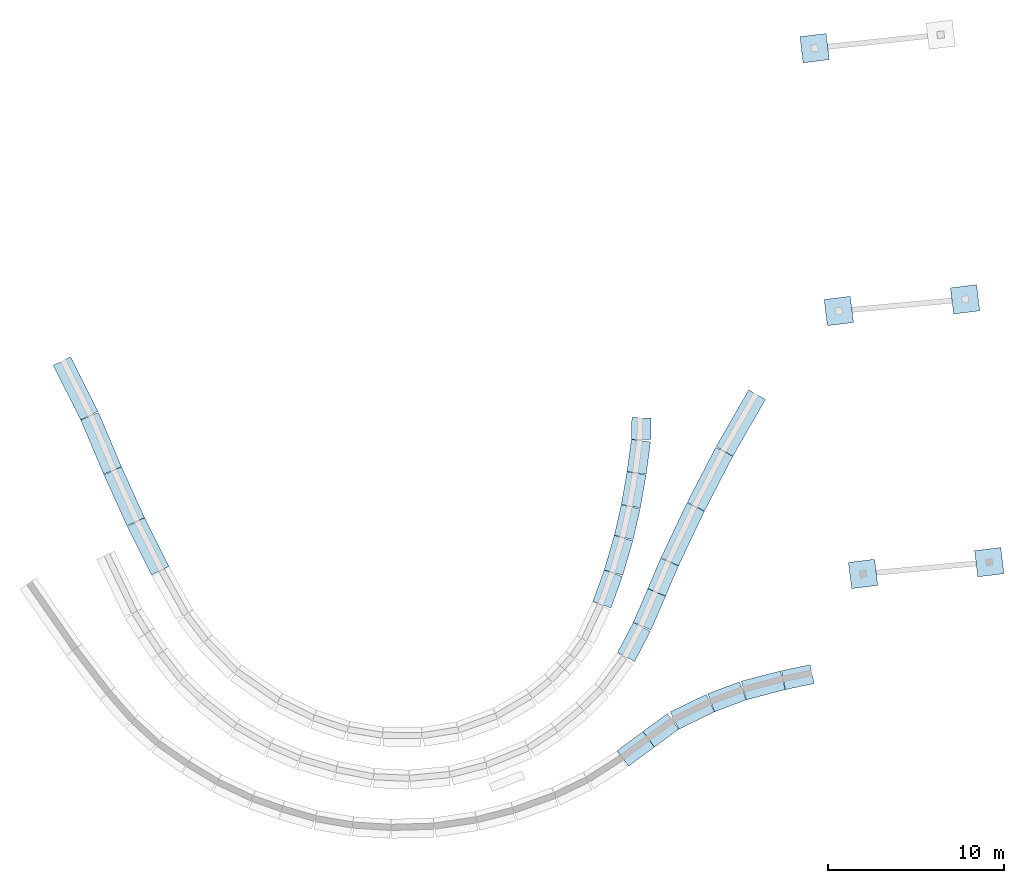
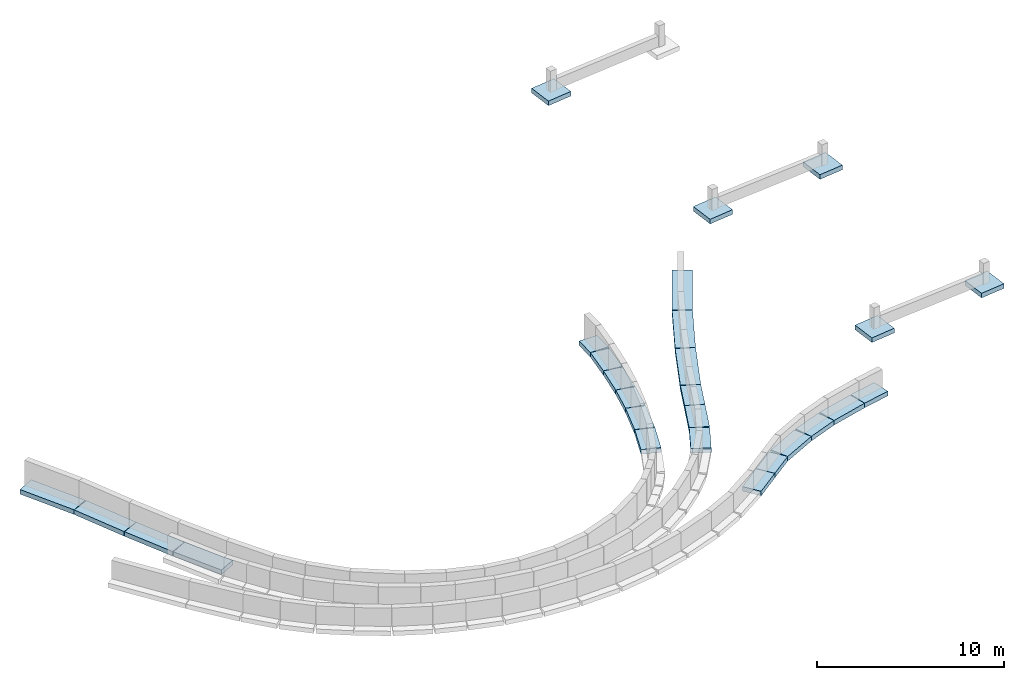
# One storey, part 3 of 6: 27 footings.
"""IFC2X3 building model written with IfcOpenShell, lengths in millimetres."""

import ifcopenshell
import ifcopenshell.guid

model = None  # the IFC model being written
_history = None  # IfcOwnerHistory: only IFC2X3 demands one
_inside = {}  # id of a spatial element -> (the spatial element, [elements in it])
_under = {}  # id of a project, library or spatial element -> (it, [spatial elements below it])
_declared = {}  # id of a project -> (the project, [libraries it declares])
_typed = {}  # id of a type object -> (the type object, [elements of that type])
_made_of = {}  # id of a material, layer set ... -> (it, [elements and type objects made of it])


def new_model(schema):
    """Start an empty IFC model of exactly this schema.

    Asked for "IFC4X3", IfcOpenShell would pick the latest addendum, in which some entities
    have other attributes; the version numbers below select the first issue.
    IFC2X3 requires an IfcOwnerHistory on every rooted entity: one is made here for all.
    """
    global model, _history
    if schema == "IFC4X3":
        model = ifcopenshell.file(schema_version=(4, 3, 0, 0))
    else:
        model = ifcopenshell.file(schema=schema)
    _inside.clear()
    _under.clear()
    _declared.clear()
    _typed.clear()
    _made_of.clear()
    _history = None
    if model.schema == "IFC2X3":
        org = make("IfcOrganization", Name="unknown")
        user = make(
            "IfcPersonAndOrganization",
            ThePerson=make("IfcPerson", FamilyName="unknown"),
            TheOrganization=org,
        )
        app = make(
            "IfcApplication",
            ApplicationDeveloper=org,
            Version="unknown",
            ApplicationFullName="unknown",
            ApplicationIdentifier="unknown",
        )
        _history = make(
            "IfcOwnerHistory",
            OwningUser=user,
            OwningApplication=app,
            ChangeAction="ADDED",
            CreationDate=0,
        )
    return model


def make(cls, **values):
    """One entity of the class cls with the attributes given. An attribute that is None is left unset."""
    return model.create_entity(
        cls, **{name: value for name, value in values.items() if value is not None}
    )


def entity(cls, *values):
    """Any entity or typed value of the class cls, its attributes in the order of the schema. None: left unset."""
    e = model.create_entity(cls)
    for i, value in enumerate(values):
        if value is not None:
            e[i] = value
    return e


def rooted(cls, **values):
    """An entity with a GlobalId (a new one), such as an element, a storey or a relation."""
    return make(cls, GlobalId=ifcopenshell.guid.new(), OwnerHistory=_history, **values)


def si_unit(unit_type, name, prefix=None):
    """IfcSIUnit, for example si_unit("LENGTHUNIT", "METRE", prefix="MILLI")."""
    return make("IfcSIUnit", UnitType=unit_type, Prefix=prefix, Name=name)


def converted_unit(unit_type, name, factor, base, dimensions=None, offset=None):
    """IfcConversionBasedUnit, such as the inch: factor (a typed value) times the base unit."""
    return make(
        "IfcConversionBasedUnit"
        if offset is None
        else "IfcConversionBasedUnitWithOffset",
        ConversionOffset=offset,
        Dimensions=None
        if dimensions is None
        else entity("IfcDimensionalExponents", *dimensions),
        UnitType=unit_type,
        Name=name,
        ConversionFactor=make(
            "IfcMeasureWithUnit", ValueComponent=factor, UnitComponent=base
        ),
    )


def assignment(units):
    """IfcUnitAssignment: the units of a project."""
    return None if units is None else make("IfcUnitAssignment", Units=units)


def point(xyz):
    """IfcCartesianPoint."""
    return None if xyz is None else make("IfcCartesianPoint", Coordinates=xyz)


def direction(xyz):
    """IfcDirection."""
    return None if xyz is None else make("IfcDirection", DirectionRatios=xyz)


def frame(location, z_axis=None, x_axis=None):
    """IfcAxis2Placement3D, a coordinate frame: its origin and axes. An axis left out is left unset."""
    return make(
        "IfcAxis2Placement3D",
        Location=point(location),
        Axis=direction(z_axis),
        RefDirection=direction(x_axis),
    )


def origin():
    """The frame at (0, 0, 0) with its axes left unset."""
    return frame((0.0, 0.0, 0.0))


def origin_with_axes():
    """The frame at (0, 0, 0) with the z axis (0, 0, 1) and the x axis (1, 0, 0) written out."""
    return frame((0.0, 0.0, 0.0), z_axis=(0.0, 0.0, 1.0), x_axis=(1.0, 0.0, 0.0))


def place(relative_to, where):
    """IfcLocalPlacement: puts the frame where relative to a parent placement (None: the world)."""
    return make(
        "IfcLocalPlacement", PlacementRelTo=relative_to, RelativePlacement=where
    )


def context(
    kind, dimensions, precision=None, world=None, true_north=None, identifier=None
):
    """IfcGeometricRepresentationContext, for example the 3D "Model" context."""
    return make(
        "IfcGeometricRepresentationContext",
        ContextIdentifier=identifier,
        ContextType=kind,
        CoordinateSpaceDimension=dimensions,
        Precision=precision,
        WorldCoordinateSystem=world,
        TrueNorth=true_north,
    )


def project(units=None, contexts=None):
    """IfcProject with its units and contexts."""
    return rooted(
        "IfcProject",
        Name="project",
        RepresentationContexts=contexts,
        UnitsInContext=assignment(units),
    )


def spatial(cls, under=None, at=None, **own):
    """A site, building, storey or space (cls), placed at a placement, below another one or the project."""
    s = rooted(cls, ObjectPlacement=at, **own)
    if under is not None:
        _under.setdefault(under.id(), (under, []))[1].append(s)
    return s


def faces_of(points, faces, orient=None, outer=None):
    """IfcFace entities. A face is a list of loops; a loop is a list of indices into points, from 0.

    orient and outer hold one flag for each loop. By default every Orientation is true, the
    first loop of a face is its IfcFaceOuterBound and the others are IfcFaceBound.
    """
    made = []
    for i, loops in enumerate(faces):
        bounds = []
        for j, loop in enumerate(loops):
            is_outer = j == 0 if outer is None else outer[i][j]
            bounds.append(
                make(
                    "IfcFaceOuterBound" if is_outer else "IfcFaceBound",
                    Bound=make("IfcPolyLoop", Polygon=[points[k] for k in loop]),
                    Orientation=True if orient is None else orient[i][j],
                )
            )
        made.append(make("IfcFace", Bounds=bounds))
    return made


def faceted_brep(points, faces, orient=None, outer=None, voids=None):
    """IfcFacetedBrep: a solid bounded by flat faces; with voids (closed shells), ...WithVoids."""
    shared = [point(p) for p in points]
    hull = make("IfcClosedShell", CfsFaces=faces_of(shared, faces, orient, outer))
    if voids is None:
        return make("IfcFacetedBrep", Outer=hull)
    return make(
        "IfcFacetedBrepWithVoids",
        Outer=hull,
        Voids=[
            make(cls, CfsFaces=faces_of(shared, fs, o, b)) for cls, fs, o, b in voids
        ],
    )


def shape(context_of_items, identifier, shape_type, items):
    """IfcShapeRepresentation: the items that make up one representation, for example the "Body"."""
    return make(
        "IfcShapeRepresentation",
        ContextOfItems=context_of_items,
        RepresentationIdentifier=identifier,
        RepresentationType=shape_type,
        Items=items,
    )


def made_of(thing, what):
    """Note that an element or type object is made of a material, layer set ...; save() writes the relation."""
    if what is not None:
        _made_of.setdefault(what.id(), (what, []))[1].append(thing)
    return thing


def element(
    cls,
    number,
    at=None,
    inside=None,
    cuts=None,
    type_object=None,
    material=None,
    context=None,
    identifier="Body",
    shape_type=None,
    held_by="IfcProductDefinitionShape",
    body=None,
    shapes=None,
    **own,
):
    """One element of the class cls, such as IfcWall. Its Tag is "e" and its number.

    at: its placement. inside: the storey or other place that contains it. cuts: it is an
    opening in that element (IfcRelVoidsElement). A single representation is given by context,
    identifier, shape_type and body (its items); several are given by shapes. held_by: the class
    of the entity that holds the representations. save() writes the other relations.
    """
    e = rooted(cls, Tag="e%d" % number, ObjectPlacement=at, **own)
    if body is not None:
        shapes = [shape(context, identifier, shape_type, body)]
    if shapes is not None:
        e.Representation = make(held_by, Representations=shapes)
    if inside is not None:
        _inside.setdefault(inside.id(), (inside, []))[1].append(e)
    if cuts is not None:
        rooted(
            "IfcRelVoidsElement", RelatingBuildingElement=cuts, RelatedOpeningElement=e
        )
    if type_object is not None:
        _typed.setdefault(type_object.id(), (type_object, []))[1].append(e)
    return made_of(e, material)


def aggregate(whole, parts):
    """IfcRelAggregates: a whole, such as a stair, and the parts it consists of."""
    return rooted("IfcRelAggregates", RelatingObject=whole, RelatedObjects=parts)


def save(model, path):
    """Write the relations noted so far, then the file.

    IfcRelAggregates (storeys below a building ...), IfcRelContainedInSpatialStructure (elements
    in a storey), IfcRelDefinesByType, IfcRelAssociatesMaterial and IfcRelDeclares: one each for
    every whole, place, type object, material and project.
    """
    for whole, parts in _under.values():
        aggregate(whole, parts)
    for where, things in _inside.values():
        rooted(
            "IfcRelContainedInSpatialStructure",
            RelatedElements=things,
            RelatingStructure=where,
        )
    for kind, things in _typed.values():
        rooted("IfcRelDefinesByType", RelatedObjects=things, RelatingType=kind)
    for what, things in _made_of.values():
        rooted("IfcRelAssociatesMaterial", RelatedObjects=things, RelatingMaterial=what)
    for by, libraries in _declared.values():
        rooted("IfcRelDeclares", RelatingContext=by, RelatedDefinitions=libraries)
    model.write(path)


model = new_model("IFC2X3")

# Units and contexts
model_context = context("Model", 3, precision=1e-05, world=origin(), true_north=direction((0.0, 1.0, 0.0)))
ifc_project = project(units=[si_unit("LENGTHUNIT", "METRE", prefix="MILLI"), si_unit("AREAUNIT", "SQUARE_METRE"), si_unit("VOLUMEUNIT", "CUBIC_METRE"), converted_unit("PLANEANGLEUNIT", "DEGREE", entity("IfcPlaneAngleMeasure", 0.01745), si_unit("PLANEANGLEUNIT", "RADIAN"), dimensions=[0, 0, 0, 0, 0, 0, 0]), si_unit("SOLIDANGLEUNIT", "STERADIAN"), si_unit("MASSUNIT", "GRAM"), si_unit("TIMEUNIT", "SECOND"), si_unit("THERMODYNAMICTEMPERATUREUNIT", "DEGREE_CELSIUS"), si_unit("LUMINOUSINTENSITYUNIT", "LUMEN")], contexts=[model_context])

# Site, building, storey
site_placement = place(None, origin_with_axes())
site = spatial("IfcSite", under=ifc_project, at=site_placement, Name="Default Site", CompositionType="ELEMENT")
building_placement = place(site_placement, origin_with_axes())
building = spatial("IfcBuilding", under=site, at=building_placement, Name="Default Building", CompositionType="ELEMENT")
storey_placement = place(building_placement, origin_with_axes())
storey = spatial("IfcBuildingStorey", under=building, at=storey_placement, Name="Fundação", CompositionType="ELEMENT", Elevation=0.0)

# Footings
footing_1_placement = place(storey_placement, origin_with_axes())
element("IfcFooting", 1, at=footing_1_placement, inside=storey, Name="IfcFooting - IfcFooting - Viga 49 (110/30)", context=model_context, shape_type="Brep", body=[
    faceted_brep([(20334.26553393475, -650.9571686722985, -2100.000029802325), (19322.57403815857, -219.1233650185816, -2100.000029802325), (18586.43514300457, -1943.734826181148, -2100.000029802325), (19598.12663878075, -2375.568629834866, -2100.000029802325), (19322.57403815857, -219.1233650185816, -2400.000041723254), (18586.43514300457, -1943.734826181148, -2400.000041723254), (19598.48989928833, -336.8962422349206, -2400.000041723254), (18862.35100413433, -2061.507703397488, -2400.000041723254), (19920.39171243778, -474.2978826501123, -2400.000041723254), (19184.25286198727, -2198.909343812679, -2400.000041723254), (20334.26553393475, -650.9571686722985, -2400.000041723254), (19598.12663878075, -2375.568629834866, -2400.000041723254)], [[[0, 1, 2]], [[0, 2, 3]], [[1, 4, 5]], [[1, 5, 2]], [[4, 6, 7]], [[4, 7, 5]], [[6, 8, 9]], [[6, 9, 7]], [[8, 10, 11]], [[8, 11, 9]], [[10, 0, 3]], [[10, 3, 11]], [[5, 3, 2]], [[3, 5, 11]], [[11, 5, 7]], [[11, 7, 9]], [[10, 1, 0]], [[1, 10, 4]]]),
])
footing_2_placement = place(storey_placement, origin_with_axes())
element("IfcFooting", 2, at=footing_2_placement, inside=storey, Name="IfcFooting - IfcFooting - Viga 51 (110/30)", context=model_context, shape_type="Brep", body=[
    faceted_brep([(18738.69025926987, -4368.096090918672, -2100.000029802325), (17762.99542035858, -3860.139764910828, -2100.000029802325), (16867.18642931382, -5580.831386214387, -2100.000029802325), (17842.88126822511, -6088.787712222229, -2100.000029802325), (17762.99542035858, -3860.139764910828, -2400.000041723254), (16867.18642931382, -5580.831386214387, -2400.000041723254), (18029.09401278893, -3998.673297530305, -2400.000041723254), (17133.2850478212, -5719.364918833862, -2400.000041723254), (18339.54239111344, -4160.295762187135, -2400.000041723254), (17443.73339634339, -5880.987383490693, -2400.000041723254), (18738.69025926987, -4368.096090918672, -2400.000041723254), (17842.88126822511, -6088.787712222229, -2400.000041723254)], [[[0, 1, 2]], [[0, 2, 3]], [[1, 4, 5]], [[1, 5, 2]], [[4, 6, 7]], [[4, 7, 5]], [[6, 8, 9]], [[6, 9, 7]], [[8, 10, 11]], [[8, 11, 9]], [[10, 0, 3]], [[10, 3, 11]], [[5, 3, 2]], [[3, 5, 11]], [[11, 5, 7]], [[0, 4, 1]], [[4, 0, 10]], [[4, 10, 6]], [[6, 10, 8]]]),
])
footing_3_placement = place(storey_placement, origin_with_axes())
element("IfcFooting", 3, at=footing_3_placement, inside=storey, Name="IfcFooting - IfcFooting - Viga 47 (110/30)", context=model_context, shape_type="Brep", body=[
    faceted_brep([(23422.80650268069, 5579.815283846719, -2100.000029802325), (22445.7365585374, 6085.121289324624, -2100.000029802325), (20829.70309386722, 2960.326329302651, -2100.000029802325), (21806.77303801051, 2455.020323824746, -2100.000029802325), (22445.7365585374, 6085.121289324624, -2400.000041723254), (20829.70309386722, 2960.326329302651, -2400.000041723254), (22712.21017966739, 5947.310582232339, -2400.000041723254), (21096.17674479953, 2822.515622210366, -2400.000041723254), (23023.09608588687, 5786.531344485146, -2400.000041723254), (21407.06259141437, 2661.736384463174, -2400.000041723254), (23422.80650268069, 5579.815283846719, -2400.000041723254), (21806.77303801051, 2455.020323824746, -2400.000041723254)], [[[0, 1, 2]], [[0, 2, 3]], [[1, 4, 5]], [[1, 5, 2]], [[4, 6, 7]], [[4, 7, 5]], [[6, 8, 9]], [[6, 9, 7]], [[8, 10, 11]], [[8, 11, 9]], [[10, 0, 3]], [[10, 3, 11]], [[5, 3, 2]], [[3, 5, 11]], [[11, 5, 7]], [[11, 7, 9]], [[10, 1, 0]], [[1, 10, 4]], [[4, 10, 8]], [[4, 8, 6]]]),
])
footing_4_placement = place(storey_placement, origin_with_axes())
element("IfcFooting", 4, at=footing_4_placement, inside=storey, Name="IfcFooting - IfcFooting - Viga 50 (110/30)", context=model_context, shape_type="Brep", body=[
    faceted_brep([(19597.08884725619, -2377.99193491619, -2100.000029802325), (18586.43517265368, -1943.734844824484, -2100.000029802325), (17762.99539575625, -3860.139747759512, -2100.000029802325), (18773.64907035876, -4294.396837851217, -2100.000029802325), (18586.43517265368, -1943.734844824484, -2400.000041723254), (17762.99539575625, -3860.139747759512, -2400.000041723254), (18862.06798622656, -2062.168558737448, -2400.000041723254), (18038.62825403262, -3978.573521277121, -2400.000041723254), (19183.63961944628, -2200.341304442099, -2400.000041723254), (18360.19984254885, -4116.746207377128, -2400.000041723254), (19597.08884725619, -2377.99193491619, -2400.000041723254), (18773.64907035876, -4294.396837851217, -2400.000041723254)], [[[0, 1, 2]], [[0, 2, 3]], [[1, 4, 5]], [[1, 5, 2]], [[4, 6, 7]], [[4, 7, 5]], [[6, 8, 9]], [[6, 9, 7]], [[8, 10, 11]], [[8, 11, 9]], [[10, 0, 3]], [[10, 3, 11]], [[5, 3, 2]], [[3, 5, 11]], [[10, 1, 0]], [[1, 10, 4]], [[4, 8, 6]]]),
])
footing_5_placement = place(storey_placement, origin_with_axes())
element("IfcFooting", 5, at=footing_5_placement, inside=storey, Name="IfcFooting - IfcFooting - Viga 46 (110/30)", context=model_context, shape_type="Brep", body=[
    faceted_brep([(25278.07321858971, 8803.116880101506, -2100.000029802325), (24324.71513462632, 9351.850352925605, -2100.000029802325), (22469.44847417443, 6128.548703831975, -2100.000029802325), (23422.80655813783, 5579.815231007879, -2100.000029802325), (24324.71513462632, 9351.850352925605, -2400.000041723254), (22469.44847417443, 6128.548703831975, -2400.000041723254), (24584.72189021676, 9202.19572607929, -2400.000041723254), (22729.45525956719, 5978.894076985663, -2400.000041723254), (24888.06310010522, 9027.598701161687, -2400.000041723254), (23032.79640985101, 5804.29705206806, -2400.000041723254), (25278.07321858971, 8803.116880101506, -2400.000041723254), (23422.80655813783, 5579.815231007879, -2400.000041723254)], [[[0, 1, 2]], [[0, 2, 3]], [[1, 4, 5]], [[1, 5, 2]], [[4, 6, 7]], [[4, 7, 5]], [[6, 8, 9]], [[6, 9, 7]], [[8, 10, 11]], [[8, 11, 9]], [[10, 0, 3]], [[10, 3, 11]], [[5, 3, 2]], [[3, 5, 11]], [[11, 5, 7]], [[11, 7, 9]], [[10, 1, 0]], [[1, 10, 4]], [[4, 10, 8]]]),
])
footing_6_placement = place(storey_placement, origin_with_axes())
element("IfcFooting", 6, at=footing_6_placement, inside=storey, Name="IfcFooting - IfcFooting - Viga 48 (110/30)", context=model_context, shape_type="Brep", body=[
    faceted_brep([(21806.77309654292, 2455.020283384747, -2100.000029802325), (20812.81687341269, 2926.243280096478, -2100.000029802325), (19340.30929229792, -179.7341359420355, -2100.000029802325), (20334.26551542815, -650.9571326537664, -2100.000029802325), (20812.81687341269, 2926.243280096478, -2400.000041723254), (19340.30929229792, -179.7341359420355, -2400.000041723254), (21083.89583252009, 2797.727917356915, -2400.000041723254), (19611.38829610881, -308.2494986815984, -2400.000041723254), (21400.15462062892, 2647.793387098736, -2400.000041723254), (19927.64708421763, -458.1841481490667, -2400.000041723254), (21806.77309654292, 2455.020283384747, -2400.000041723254), (20334.26551542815, -650.9571326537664, -2400.000041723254)], [[[0, 1, 2]], [[0, 2, 3]], [[1, 4, 5]], [[1, 5, 2]], [[4, 6, 7]], [[4, 7, 5]], [[6, 8, 9]], [[6, 9, 7]], [[8, 10, 11]], [[8, 11, 9]], [[10, 0, 3]], [[10, 3, 11]], [[5, 3, 2]], [[3, 5, 11]], [[11, 5, 7]], [[11, 7, 9]], [[10, 1, 0]], [[1, 10, 4]], [[4, 10, 8]], [[4, 8, 6]]]),
])
footing_7_placement = place(storey_placement, origin_with_axes())
element("IfcFooting", 7, at=footing_7_placement, inside=storey, Name="IfcFooting - IfcFooting - Viga 1 (110/30)", context=model_context, shape_type="Brep", body=[
    faceted_brep([(-14209.41708448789, 11227.40836743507, -3450.000000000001), (-15191.76805976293, 10732.4472248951, -3450.000000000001), (-13631.80569771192, 7636.384207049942, -3450.000000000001), (-12649.45472243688, 8131.34534958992, -3450.000000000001), (-15191.76805976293, 10732.4472248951, -3750.000011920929), (-13631.80569771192, 7636.384207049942, -3750.000011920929), (-14789.89721301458, 10934.93135575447, -3750.000011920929), (-13229.93482116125, 7838.868337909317, -3750.000011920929), (-14477.33099225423, 11092.41898659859, -3750.000011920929), (-12917.36854079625, 7996.355968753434, -3750.000011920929), (-14209.41708448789, 11227.40836743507, -3750.000011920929), (-12649.45472243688, 8131.34534958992, -3750.000011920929)], [[[0, 1, 2]], [[0, 2, 3]], [[1, 4, 5]], [[1, 5, 2]], [[4, 6, 7]], [[4, 7, 5]], [[6, 8, 9]], [[6, 9, 7]], [[8, 10, 11]], [[8, 11, 9]], [[10, 0, 3]], [[10, 3, 11]], [[5, 3, 2]], [[3, 5, 11]], [[11, 5, 7]], [[11, 7, 9]], [[10, 1, 0]], [[1, 10, 8]], [[1, 8, 6]], [[1, 6, 4]]]),
])
footing_8_placement = place(storey_placement, origin_with_axes())
element("IfcFooting", 8, at=footing_8_placement, inside=storey, Name="IfcFooting - IfcFooting - Viga 17 (110/30)", context=model_context, shape_type="Brep", body=[
    faceted_brep([(17144.96027210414, -1260.392999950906, -3450.000000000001), (16110.4266373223, -886.5747216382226, -3450.000000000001), (15465.56841114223, -2671.205139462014, -3450.000000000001), (16500.10204592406, -3045.023417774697, -3450.000000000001), (16110.4266373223, -886.5747216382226, -3750.000011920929), (15465.56841114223, -2671.205139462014, -3750.000011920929), (16392.57217475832, -988.5251286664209, -3750.000011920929), (15747.71397092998, -2773.155606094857, -3750.000011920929), (16721.74196222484, -1107.467329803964, -3750.000011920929), (16076.88373604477, -2892.0978072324, -3750.000011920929), (17144.96027210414, -1260.392999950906, -3750.000011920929), (16500.10204592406, -3045.023417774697, -3750.000011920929)], [[[0, 1, 2]], [[0, 2, 3]], [[1, 4, 5]], [[1, 5, 2]], [[4, 6, 7]], [[4, 7, 5]], [[6, 8, 9]], [[6, 9, 7]], [[8, 10, 11]], [[8, 11, 9]], [[10, 0, 3]], [[10, 3, 11]], [[5, 3, 2]], [[3, 5, 11]], [[11, 5, 7]], [[11, 7, 9]], [[0, 4, 1]], [[4, 0, 6]], [[6, 0, 10]]]),
])
footing_9_placement = place(storey_placement, origin_with_axes())
element("IfcFooting", 9, at=footing_9_placement, inside=storey, Name="IfcFooting - IfcFooting - Viga 2 (110/30)", context=model_context, shape_type="Brep", body=[
    faceted_brep([(-12618.55309010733, 8064.542075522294, -3450.000000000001), (-13631.80569113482, 7636.384269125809, -3450.000000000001), (-12327.06012130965, 4548.651715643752, -3450.000000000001), (-11313.80752028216, 4976.809522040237, -3450.000000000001), (-13631.80569113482, 7636.384269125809, -3750.000011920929), (-12327.06012130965, 4548.651715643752, -3750.000011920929), (-13217.29329527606, 7811.539670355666, -3750.000011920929), (-11912.5476807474, 4723.807236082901, -3750.000011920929), (-12894.89472211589, 7947.771688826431, -3750.000011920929), (-11590.14913738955, 4860.039254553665, -3750.000011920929), (-12618.55309010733, 8064.542075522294, -3750.000011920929), (-11313.80752028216, 4976.809522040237, -3750.000011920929)], [[[0, 1, 2]], [[0, 2, 3]], [[1, 4, 5]], [[1, 5, 2]], [[4, 6, 7]], [[4, 7, 5]], [[6, 8, 9]], [[6, 9, 7]], [[8, 10, 11]], [[8, 11, 9]], [[10, 0, 3]], [[10, 3, 11]], [[5, 3, 2]], [[3, 5, 11]], [[11, 5, 7]], [[11, 7, 9]], [[10, 1, 0]], [[1, 10, 4]], [[4, 10, 8]]]),
])
footing_10_placement = place(storey_placement, origin_with_axes())
element("IfcFooting", 10, at=footing_10_placement, inside=storey, Name="IfcFooting - IfcFooting - Viga 4 (110/30)", context=model_context, shape_type="Brep", body=[
    faceted_brep([(-10004.38720095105, 2082.353854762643, -3450.000000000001), (-10988.25714099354, 1590.418959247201, -3450.000000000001), (-9606.432558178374, -1173.230146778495, -3450.000000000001), (-8622.562618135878, -681.2952512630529, -3450.000000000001), (-10988.25714099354, 1590.418959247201, -3750.000011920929), (-9606.432558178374, -1173.230146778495, -3750.000011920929), (-10585.76485621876, 1791.664982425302, -3750.000011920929), (-9203.940303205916, -971.9840043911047, -3750.000011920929), (-10272.71536099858, 1948.189759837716, -3750.000011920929), (-8890.890807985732, -815.4593461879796, -3750.000011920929), (-10004.38720095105, 2082.353854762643, -3750.000011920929), (-8622.562618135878, -681.2952512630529, -3750.000011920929)], [[[0, 1, 2]], [[0, 2, 3]], [[1, 4, 5]], [[1, 5, 2]], [[4, 6, 7]], [[4, 7, 5]], [[6, 8, 9]], [[6, 9, 7]], [[8, 10, 11]], [[8, 11, 9]], [[10, 0, 3]], [[10, 3, 11]], [[5, 3, 2]], [[3, 5, 11]], [[11, 5, 7]], [[11, 7, 9]], [[10, 1, 0]], [[1, 10, 4]], [[4, 10, 8]], [[4, 8, 6]]]),
])
footing_11_placement = place(storey_placement, origin_with_axes())
element("IfcFooting", 11, at=footing_11_placement, inside=storey, Name="IfcFooting - IfcFooting - Viga 22 (110/30)", context=model_context, shape_type="Brep", body=[
    faceted_brep([(18778.94260555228, 7749.570636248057, -3450.000000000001), (17679.15733724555, 7771.305529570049, -3450.000000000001), (17654.72426086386, 6534.992961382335, -3450.000000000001), (18754.50952917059, 6513.258068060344, -3450.000000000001), (17679.15733724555, 7771.305529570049, -3750.000011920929), (17654.72426086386, 6534.992961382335, -3750.000011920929), (17979.09877270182, 7765.377847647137, -3750.000011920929), (17954.6657112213, 6529.065219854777, -3750.000011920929), (18329.03043746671, 7758.462218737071, -3750.000011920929), (18304.59738343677, 6522.149590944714, -3750.000011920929), (18778.94260555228, 7749.570636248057, -3750.000011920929), (18754.50952917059, 6513.258068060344, -3750.000011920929)], [[[0, 1, 2]], [[0, 2, 3]], [[1, 4, 5]], [[1, 5, 2]], [[4, 6, 7]], [[4, 7, 5]], [[6, 8, 9]], [[6, 9, 7]], [[8, 10, 11]], [[8, 11, 9]], [[10, 0, 3]], [[10, 3, 11]], [[5, 3, 2]], [[3, 5, 11]], [[11, 5, 7]], [[10, 1, 0]], [[1, 10, 4]], [[4, 10, 8]]]),
])
footing_12_placement = place(storey_placement, origin_with_axes())
element("IfcFooting", 12, at=footing_12_placement, inside=storey, Name="IfcFooting - IfcFooting - Viga 20 (110/30)", context=model_context, shape_type="Brep", body=[
    faceted_brep([(18490.65406482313, 4513.77860128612, -3450.000000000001), (17406.81652586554, 4701.65142833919, -3450.000000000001), (17081.65998618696, 2825.824294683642, -3450.000000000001), (18165.49752514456, 2637.951467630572, -3450.000000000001), (17406.81652586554, 4701.65142833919, -3750.000011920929), (17081.65998618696, 2825.824294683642, -3750.000011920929), (17702.40858059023, 4650.413368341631, -3750.000011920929), (17377.25205581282, 2774.586294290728, -3750.000011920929), (18047.26599018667, 4590.635631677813, -3750.000011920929), (17722.10944305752, 2714.80855762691, -3750.000011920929), (18490.65406482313, 4513.77860128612, -3750.000011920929), (18165.49752514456, 2637.951467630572, -3750.000011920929)], [[[0, 1, 2]], [[0, 2, 3]], [[1, 4, 5]], [[1, 5, 2]], [[4, 6, 7]], [[4, 7, 5]], [[6, 8, 9]], [[6, 9, 7]], [[8, 10, 11]], [[8, 11, 9]], [[10, 0, 3]], [[10, 3, 11]], [[5, 3, 2]], [[3, 5, 11]], [[11, 5, 7]], [[10, 1, 0]], [[1, 10, 6]], [[1, 6, 4]], [[6, 10, 8]]]),
])
footing_13_placement = place(storey_placement, origin_with_axes())
element("IfcFooting", 13, at=footing_13_placement, inside=storey, Name="IfcFooting - IfcFooting - Viga 21 (110/30)", context=model_context, shape_type="Brep", body=[
    faceted_brep([(18744.80344002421, 6387.590461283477, -3450.000000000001), (17654.72428147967, 6534.992926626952, -3450.000000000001), (17406.81649391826, 4701.651387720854, -3450.000000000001), (18496.8956524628, 4554.248922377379, -3450.000000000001), (17654.72428147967, 6534.992926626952, -3750.000011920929), (17406.81649391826, 4701.651387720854, -3750.000011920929), (17952.01859270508, 6494.792275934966, -3750.000011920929), (17704.11084239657, 4661.450677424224, -3750.000011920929), (18298.86194710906, 6447.891467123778, -3750.000011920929), (18050.95419121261, 4614.549928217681, -3750.000011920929), (18744.80344002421, 6387.590461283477, -3750.000011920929), (18496.8956524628, 4554.248922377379, -3750.000011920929)], [[[0, 1, 2]], [[0, 2, 3]], [[1, 4, 5]], [[1, 5, 2]], [[4, 6, 7]], [[4, 7, 5]], [[6, 8, 9]], [[6, 9, 7]], [[8, 10, 11]], [[8, 11, 9]], [[10, 0, 3]], [[10, 3, 11]], [[5, 3, 2]], [[3, 5, 11]], [[11, 5, 7]], [[11, 7, 9]], [[10, 1, 0]], [[1, 10, 4]], [[4, 8, 6]]]),
])
footing_14_placement = place(storey_placement, origin_with_axes())
element("IfcFooting", 14, at=footing_14_placement, inside=storey, Name="IfcFooting - IfcFooting - Viga 3 (110/30)", context=model_context, shape_type="Brep", body=[
    faceted_brep([(-11313.80750532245, 4976.80959918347, -3450.000000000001), (-12316.02315898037, 4523.418047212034, -3450.000000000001), (-11006.60284156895, 1628.96237590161, -3450.000000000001), (-10004.38718791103, 2082.353927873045, -3450.000000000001), (-12316.02315898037, 4523.418047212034, -3750.000011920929), (-11006.60284156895, 1628.96237590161, -3750.000011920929), (-11906.02581496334, 4708.896376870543, -3750.000011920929), (-10596.60552735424, 1814.440705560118, -3750.000011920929), (-11587.13905806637, 4853.157379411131, -3750.000011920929), (-10277.71871085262, 1958.701708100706, -3750.000011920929), (-11313.80750532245, 4976.80959918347, -3750.000011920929), (-10004.38718791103, 2082.353927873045, -3750.000011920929)], [[[0, 1, 2]], [[0, 2, 3]], [[1, 4, 5]], [[1, 5, 2]], [[4, 6, 7]], [[4, 7, 5]], [[6, 8, 9]], [[6, 9, 7]], [[8, 10, 11]], [[8, 11, 9]], [[10, 0, 3]], [[10, 3, 11]], [[5, 3, 2]], [[3, 5, 11]], [[11, 5, 7]], [[11, 7, 9]], [[10, 1, 0]], [[1, 10, 4]], [[4, 10, 8]], [[4, 8, 6]]]),
])
footing_15_placement = place(storey_placement, origin_with_axes())
element("IfcFooting", 15, at=footing_15_placement, inside=storey, Name="IfcFooting - IfcFooting - Viga 19 (110/30)", context=model_context, shape_type="Brep", body=[
    faceted_brep([(18154.0795209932, 2581.04605496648, -3450.000000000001), (17081.65999680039, 2825.824330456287, -3450.000000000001), (16683.87445240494, 1083.051155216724, -3450.000000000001), (17756.29397659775, 838.2728797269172, -3450.000000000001), (17081.65999680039, 2825.824330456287, -3750.000011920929), (16683.87445240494, 1083.051155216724, -3750.000011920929), (17374.13803666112, 2759.066591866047, -3750.000011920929), (16976.35250716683, 1016.293416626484, -3750.000011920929), (17715.36242394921, 2681.182633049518, -3750.000011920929), (17317.57690935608, 938.4094578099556, -3750.000011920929), (18154.0795209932, 2581.04605496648, -3750.000011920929), (17756.29397659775, 838.2728797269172, -3750.000011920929)], [[[0, 1, 2]], [[0, 2, 3]], [[1, 4, 5]], [[1, 5, 2]], [[4, 6, 7]], [[4, 7, 5]], [[6, 8, 9]], [[6, 9, 7]], [[8, 10, 11]], [[8, 11, 9]], [[10, 0, 3]], [[10, 3, 11]], [[5, 3, 2]], [[3, 5, 11]], [[11, 5, 7]], [[11, 7, 9]], [[10, 1, 0]], [[1, 10, 4]], [[4, 8, 6]]]),
])
footing_16_placement = place(storey_placement, origin_with_axes())
element("IfcFooting", 16, at=footing_16_placement, inside=storey, Name="IfcFooting - IfcFooting - Viga 18 (110/30)", context=model_context, shape_type="Brep", body=[
    faceted_brep([(17740.02227754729, 775.5583944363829, -3450.000000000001), (16683.87447865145, 1083.051187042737, -3450.000000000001), (16110.42664022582, -886.5747032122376, -3450.000000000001), (17166.57443912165, -1194.067495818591, -3450.000000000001), (16683.87447865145, 1083.051187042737, -3750.000011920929), (16110.42664022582, -886.5747032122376, -3750.000011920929), (16971.91478507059, 999.1894784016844, -3750.000011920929), (16398.46692056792, -970.4363522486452, -3750.000011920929), (17307.96182723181, 901.3508977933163, -3750.000011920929), (16734.51397390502, -1068.274992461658, -3750.000011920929), (17740.02227754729, 775.5583944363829, -3750.000011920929), (17166.57443912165, -1194.067495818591, -3750.000011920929)], [[[0, 1, 2]], [[0, 2, 3]], [[1, 4, 5]], [[1, 5, 2]], [[4, 6, 7]], [[4, 7, 5]], [[6, 8, 9]], [[6, 9, 7]], [[8, 10, 11]], [[8, 11, 9]], [[10, 0, 3]], [[10, 3, 11]], [[5, 3, 2]], [[3, 5, 11]], [[11, 5, 7]], [[10, 1, 0]], [[1, 10, 4]], [[4, 8, 6]]]),
])
footing_17_placement = place(storey_placement, origin_with_axes())
element("IfcFooting", 17, at=footing_17_placement, inside=storey, Name="IfcFooting - IfcFooting - Viga 100 (110/30)", context=model_context, shape_type="Brep", body=[
    faceted_brep([(18964.77002011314, -10950.76500732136, -1200.00002980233), (18309.9340807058, -10066.91552061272, -1200.00002980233), (16842.64820920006, -11154.01389557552, -1200.00002980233), (17497.4841486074, -12037.86338228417, -1200.00002980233), (18309.9340807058, -10066.91552061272, -1500.000041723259), (16842.64820920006, -11154.01389557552, -1500.000041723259), (18488.52568970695, -10307.96534675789, -1500.000041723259), (17021.23987780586, -11395.06376642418, -1500.000041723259), (18696.88254700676, -10589.19019359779, -1500.000041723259), (17229.59673510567, -11676.28861326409, -1500.000041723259), (18964.77002011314, -10950.76500732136, -1500.000041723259), (17497.4841486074, -12037.86338228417, -1500.000041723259)], [[[0, 1, 2]], [[0, 2, 3]], [[1, 4, 5]], [[1, 5, 2]], [[4, 6, 7]], [[4, 7, 5]], [[6, 8, 9]], [[6, 9, 7]], [[8, 10, 11]], [[8, 11, 9]], [[10, 0, 3]], [[10, 3, 11]], [[5, 3, 2]], [[3, 5, 11]], [[11, 5, 7]], [[11, 7, 9]], [[10, 1, 0]], [[1, 10, 4]], [[4, 10, 8]], [[4, 8, 6]]]),
])
footing_18_placement = place(storey_placement, origin_with_axes())
element("IfcFooting", 18, at=footing_18_placement, inside=storey, Name="IfcFooting - IfcFooting - Viga 99 (110/30)", context=model_context, shape_type="Brep", body=[
    faceted_brep([(20350.17185497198, -9937.387158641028, -1200.00002980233), (19700.7489113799, -9049.552788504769, -1200.00002980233), (18315.34700679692, -10062.93063379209, -1200.00002980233), (18964.769950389, -10950.76500392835, -1200.00002980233), (19700.7489113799, -9049.552788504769, -1500.000041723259), (18315.34700679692, -10062.93063379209, -1500.000041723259), (19877.86423253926, -9291.689445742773, -1500.000041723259), (18492.46238756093, -10305.0672910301, -1500.000041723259), (20084.49881362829, -9574.18217278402, -1500.000041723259), (18699.09696864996, -10587.56004787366, -1500.000041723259), (20350.17185497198, -9937.387158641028, -1500.000041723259), (18964.769950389, -10950.76500392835, -1500.000041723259)], [[[0, 1, 2]], [[0, 2, 3]], [[1, 4, 5]], [[1, 5, 2]], [[4, 6, 7]], [[4, 7, 5]], [[6, 8, 9]], [[6, 9, 7]], [[8, 10, 11]], [[8, 11, 9]], [[10, 0, 3]], [[10, 3, 11]], [[5, 3, 2]], [[3, 5, 11]], [[11, 5, 7]], [[10, 1, 0]], [[1, 10, 4]], [[4, 8, 6]]]),
])
footing_19_placement = place(storey_placement, origin_with_axes())
element("IfcFooting", 19, at=footing_19_placement, inside=storey, Name="IfcFooting - IfcFooting - Viga 96 (110/30)", context=model_context, shape_type="Brep", body=[
    faceted_brep([(26400.75668588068, -7686.742800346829, -1200.00002980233), (26122.38559022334, -6622.548463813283, -1200.00002980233), (23899.97777238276, -7203.884112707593, -1200.00002980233), (24178.34886804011, -8268.078449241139, -1200.00002980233), (26122.38559022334, -6622.548463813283, -1500.000041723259), (23899.97777238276, -7203.884112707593, -1500.000041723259), (26198.30497994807, -6912.78332757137, -1500.000041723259), (23975.89716210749, -7494.118920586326, -1500.000041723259), (26286.87760129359, -7251.390579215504, -1500.000041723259), (24064.46978345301, -7832.726213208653, -1500.000041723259), (26400.75668588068, -7686.742800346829, -1500.000041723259), (24178.34886804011, -8268.078449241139, -1500.000041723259)], [[[0, 1, 2]], [[0, 2, 3]], [[1, 4, 5]], [[1, 5, 2]], [[4, 6, 7]], [[4, 7, 5]], [[6, 8, 9]], [[6, 9, 7]], [[8, 10, 11]], [[8, 11, 9]], [[10, 0, 3]], [[10, 3, 11]], [[5, 3, 2]], [[3, 5, 11]], [[10, 1, 0]], [[1, 10, 4]]]),
])
footing_20_placement = place(storey_placement, origin_with_axes())
element("IfcFooting", 20, at=footing_20_placement, inside=storey, Name="IfcFooting - IfcFooting - Viga 98 (110/30)", context=model_context, shape_type="Brep", body=[
    faceted_brep([(22385.99594034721, -8944.09030873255, -1200.00002980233), (21903.64684261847, -7955.485541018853, -1200.00002980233), (19867.82272257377, -8948.782418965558, -1200.00002980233), (20350.17182030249, -9937.387186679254, -1200.00002980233), (21903.64684261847, -7955.485541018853, -1500.000041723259), (19867.82272257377, -8948.782418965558, -1500.000041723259), (22035.19661821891, -8225.105065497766, -1500.000041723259), (19999.37243856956, -9218.401897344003, -1500.000041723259), (22188.67130674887, -8539.66109791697, -1500.000041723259), (20152.84718670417, -9532.957929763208, -1500.000041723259), (22385.99594034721, -8944.09030873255, -1500.000041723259), (20350.17182030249, -9937.387186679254, -1500.000041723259)], [[[0, 1, 2]], [[0, 2, 3]], [[1, 4, 5]], [[1, 5, 2]], [[4, 6, 7]], [[4, 7, 5]], [[6, 8, 9]], [[6, 9, 7]], [[8, 10, 11]], [[8, 11, 9]], [[10, 0, 3]], [[10, 3, 11]], [[5, 3, 2]], [[3, 5, 11]], [[11, 5, 7]], [[11, 7, 9]], [[10, 1, 0]], [[1, 10, 4]]]),
])
footing_21_placement = place(storey_placement, origin_with_axes())
element("IfcFooting", 21, at=footing_21_placement, inside=storey, Name="IfcFooting - IfcFooting - Viga 95 (110/30)", context=model_context, shape_type="Brep", body=[
    faceted_brep([(28042.45155386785, -7341.748950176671, -1200.00002980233), (27816.23315148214, -6265.261528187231, -1200.00002980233), (26174.53830771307, -6610.255357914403, -1200.00002980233), (26400.75671009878, -7686.742779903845, -1200.00002980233), (27816.23315148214, -6265.261528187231, -1500.000041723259), (26174.53830771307, -6610.255357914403, -1500.000041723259), (27877.92908482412, -6558.849004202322, -1500.000041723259), (26236.23424105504, -6903.842833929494, -1500.000041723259), (27949.90765385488, -6901.367728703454, -1500.000041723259), (26308.21281008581, -7246.36158078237, -1500.000041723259), (28042.45155386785, -7341.748950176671, -1500.000041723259), (26400.75671009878, -7686.742779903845, -1500.000041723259)], [[[0, 1, 2]], [[0, 2, 3]], [[1, 4, 5]], [[1, 5, 2]], [[4, 6, 7]], [[4, 7, 5]], [[6, 8, 9]], [[6, 9, 7]], [[8, 10, 11]], [[8, 11, 9]], [[10, 0, 3]], [[10, 3, 11]], [[5, 3, 2]], [[3, 5, 11]], [[11, 7, 9]], [[10, 1, 0]], [[1, 10, 4]]]),
])
footing_22_placement = place(storey_placement, origin_with_axes())
element("IfcFooting", 22, at=footing_22_placement, inside=storey, Name="IfcFooting - IfcFooting - Viga 97 (110/30)", context=model_context, shape_type="Brep", body=[
    faceted_brep([(24178.34882570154, -8268.078418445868, -1200.00002980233), (23790.16064239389, -7238.850625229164, -1200.00002980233), (21997.80778718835, -7914.862485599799, -1200.00002980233), (22385.995970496, -8944.090278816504, -1200.00002980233), (23790.16064239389, -7238.850625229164, -1500.000041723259), (21997.80778718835, -7914.862485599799, -1500.000041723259), (23896.03017402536, -7519.549103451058, -1500.000041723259), (22103.67725921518, -8195.560978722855, -1500.000041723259), (24019.54458785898, -7847.030671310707, -1500.000041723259), (22227.1916730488, -8523.042561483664, -1500.000041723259), (24178.34882570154, -8268.078418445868, -1500.000041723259), (22385.995970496, -8944.090278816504, -1500.000041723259)], [[[0, 1, 2]], [[0, 2, 3]], [[1, 4, 5]], [[1, 5, 2]], [[4, 6, 7]], [[4, 7, 5]], [[6, 8, 9]], [[6, 9, 7]], [[8, 10, 11]], [[8, 11, 9]], [[10, 0, 3]], [[10, 3, 11]], [[5, 3, 2]], [[3, 5, 11]], [[11, 5, 7]], [[11, 7, 9]], [[10, 1, 0]], [[1, 10, 8]], [[1, 8, 6]], [[1, 6, 4]]]),
])
footing_23_placement = place(storey_placement, frame((8697.059722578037, -565.5739542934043, -3398.624071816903), z_axis=(0.0, 0.0, 1.0), x_axis=(1.0, 0.0, 0.0)))
element("IfcFooting", 23, at=footing_23_placement, inside=storey, Name="IfcFooting - P3 (150 x 150 x 30)", context=model_context, shape_type="Brep", body=[
    faceted_brep([(18715.24487346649, 28489.94313500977, 5.960464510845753e-06), (20021.26012653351, 30161.56636499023, 5.960464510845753e-06), (18532.44088500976, 29978.76237653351, 5.960464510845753e-06), (20204.06411499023, 28672.74712346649, 5.960464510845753e-06), (18532.44088500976, 29978.76237653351, -300.0000059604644), (20204.06411499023, 28672.74712346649, -300.0000059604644), (18715.24487346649, 28489.94313500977, -300.0000059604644), (20021.26012653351, 30161.56636499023, -300.0000059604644)], [[[0, 1, 2]], [[0, 3, 1]], [[4, 5, 6]], [[4, 7, 5]], [[3, 6, 5]], [[3, 0, 6]], [[1, 5, 7]], [[1, 3, 5]], [[2, 7, 4]], [[2, 1, 7]], [[0, 4, 6]], [[0, 2, 4]]]),
])
footing_24_placement = place(storey_placement, frame((8697.059722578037, -565.5739542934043, -1732.458661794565), z_axis=(0.0, 0.0, 1.0), x_axis=(1.0, 0.0, 0.0)))
element("IfcFooting", 24, at=footing_24_placement, inside=storey, Name="IfcFooting - P7 (150 x 150 x 30)", context=model_context, shape_type="Brep", body=[
    faceted_brep([(21471.01654346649, -1380.904367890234, 5.960464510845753e-06), (22777.03179653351, 290.7188620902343, 5.960464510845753e-06), (21288.21255500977, 107.9148736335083, 5.960464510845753e-06), (22959.83578499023, -1198.100379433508, 5.960464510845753e-06), (21288.21255500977, 107.9148736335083, -300.0000059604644), (22959.83578499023, -1198.100379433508, -300.0000059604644), (21471.01654346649, -1380.904367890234, -300.0000059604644), (22777.03179653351, 290.7188620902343, -300.0000059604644)], [[[0, 1, 2]], [[0, 3, 1]], [[4, 5, 6]], [[4, 7, 5]], [[3, 6, 5]], [[3, 0, 6]], [[1, 5, 7]], [[1, 3, 5]], [[2, 7, 4]], [[2, 1, 7]], [[0, 4, 6]], [[0, 2, 4]]]),
])
footing_25_placement = place(storey_placement, frame((8697.059722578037, -565.5739542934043, -2555.154681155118), z_axis=(0.0, 0.0, 1.0), x_axis=(1.0, 0.0, 0.0)))
element("IfcFooting", 25, at=footing_25_placement, inside=storey, Name="IfcFooting - P5 (150 x 150 x 30)", context=model_context, shape_type="Brep", body=[
    faceted_brep([(20091.27120346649, 13556.70065500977, 5.960464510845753e-06), (21397.28645653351, 15228.32388499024, 5.960464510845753e-06), (19908.46721500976, 15045.51989653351, 5.960464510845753e-06), (21580.09044499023, 13739.50464346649, 5.960464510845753e-06), (19908.46721500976, 15045.51989653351, -300.0000059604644), (21580.09044499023, 13739.50464346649, -300.0000059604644), (20091.27120346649, 13556.70065500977, -300.0000059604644), (21397.28645653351, 15228.32388499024, -300.0000059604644)], [[[0, 1, 2]], [[0, 3, 1]], [[4, 5, 6]], [[4, 7, 5]], [[3, 6, 5]], [[3, 0, 6]], [[1, 5, 7]], [[1, 3, 5]], [[2, 7, 4]], [[2, 1, 7]], [[0, 4, 6]], [[0, 2, 4]]]),
])
footing_26_placement = place(storey_placement, frame((8697.059722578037, -565.5739542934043, -1732.458661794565), z_axis=(0.0, 0.0, 1.0), x_axis=(1.0, 0.0, 0.0)))
element("IfcFooting", 26, at=footing_26_placement, inside=storey, Name="IfcFooting - P8 (150 x 150 x 30)", context=model_context, shape_type="Brep", body=[
    faceted_brep([(28640.31051346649, -715.0097651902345, 5.960464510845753e-06), (29946.32576653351, 956.6134647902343, 5.960464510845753e-06), (28457.50652500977, 773.8094763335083, 5.960464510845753e-06), (30129.12975499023, -532.2057767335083, 5.960464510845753e-06), (28457.50652500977, 773.8094763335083, -300.0000059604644), (30129.12975499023, -532.2057767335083, -300.0000059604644), (28640.31051346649, -715.0097651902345, -300.0000059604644), (29946.32576653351, 956.6134647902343, -300.0000059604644)], [[[0, 1, 2]], [[0, 3, 1]], [[4, 5, 6]], [[4, 7, 5]], [[3, 6, 5]], [[3, 0, 6]], [[1, 5, 7]], [[1, 3, 5]], [[2, 7, 4]], [[2, 1, 7]], [[0, 4, 6]], [[0, 2, 4]]]),
])
footing_27_placement = place(storey_placement, frame((8697.059722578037, -565.5739542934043, -2555.154681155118), z_axis=(0.0, 0.0, 1.0), x_axis=(1.0, 0.0, 0.0)))
element("IfcFooting", 27, at=footing_27_placement, inside=storey, Name="IfcFooting - P6 (150 x 150 x 30)", context=model_context, shape_type="Brep", body=[
    faceted_brep([(27264.92050346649, 14219.17471500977, 5.960464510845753e-06), (28570.93575653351, 15890.79794499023, 5.960464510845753e-06), (27082.11651500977, 15707.99395653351, 5.960464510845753e-06), (28753.73974499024, 14401.97870346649, 5.960464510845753e-06), (27082.11651500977, 15707.99395653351, -300.0000059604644), (28753.73974499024, 14401.97870346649, -300.0000059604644), (27264.92050346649, 14219.17471500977, -300.0000059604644), (28570.93575653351, 15890.79794499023, -300.0000059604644)], [[[0, 1, 2]], [[0, 3, 1]], [[4, 5, 6]], [[4, 7, 5]], [[3, 6, 5]], [[3, 0, 6]], [[1, 5, 7]], [[1, 3, 5]], [[2, 7, 4]], [[2, 1, 7]], [[0, 4, 6]], [[0, 2, 4]]]),
])

save(model, "model.ifc")
